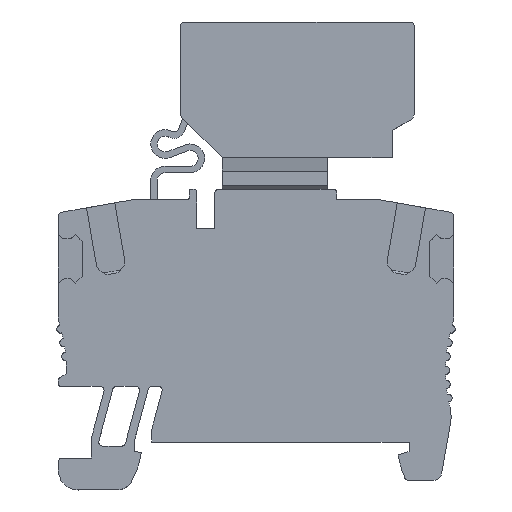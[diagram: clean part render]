
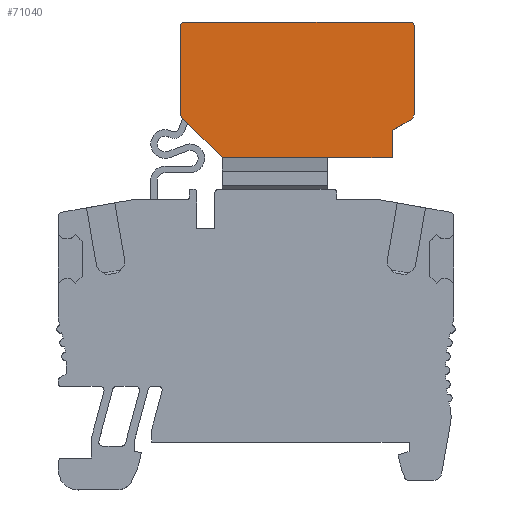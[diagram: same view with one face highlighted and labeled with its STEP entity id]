
A CAD part, top view. The second image highlights one B-rep face of the part: STEP entity #71040.
In plain terms, the highlighted planar face has unit normal (0, 0, 1).
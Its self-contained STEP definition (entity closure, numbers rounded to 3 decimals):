
#67000=CARTESIAN_POINT('',(-25.804,40.754,
0.7));
#67010=VERTEX_POINT('',#67000);
#67040=CARTESIAN_POINT('',(8.95,6.,
0.7));
#67050=DIRECTION('',(-0.707,0.707,
0.));
#67060=VECTOR('',#67050,1.);
#67070=LINE('',#67040,#67060);
#67080=CARTESIAN_POINT('',(-20.75,35.7,
0.7));
#67090=VERTEX_POINT('',#67080);
#67100=EDGE_CURVE('',#67090,#67010,#67070,.T.);
#67530=CARTESIAN_POINT('',(2.85,52.7,
0.7));
#67540=VERTEX_POINT('',#67530);
#67700=CARTESIAN_POINT('',(3.35,52.2,
0.7));
#67710=VERTEX_POINT('',#67700);
#67740=CARTESIAN_POINT('',(2.85,52.2,
0.7));
#67750=DIRECTION('',(0.,0.,1.));
#67760=DIRECTION('',(1.,0.,0.));
#67770=AXIS2_PLACEMENT_3D('',#67740,#67750,#67760);
#67780=CIRCLE('',#67770,0.5);
#67790=EDGE_CURVE('',#67710,#67540,#67780,.T.);
#67970=CARTESIAN_POINT('',(-10.8,52.7,
0.7));
#67980=DIRECTION('',(1.,0.,0.));
#67990=VECTOR('',#67980,1.);
#68000=LINE('',#67970,#67990);
#68010=CARTESIAN_POINT('',(-25.45,52.7,0.7));
#68020=VERTEX_POINT('',#68010);
#68030=EDGE_CURVE('',#68020,#67540,#68000,.T.);
#69030=CARTESIAN_POINT('',(-25.45,52.2,0.7));
#69040=DIRECTION('',(0.,0.,-1.));
#69050=DIRECTION('',(-1.,0.,0.));
#69060=AXIS2_PLACEMENT_3D('',#69030,#69040,#69050);
#69070=CIRCLE('',#69060,0.5);
#69080=CARTESIAN_POINT('',(-25.95,52.2,0.7));
#69090=VERTEX_POINT('',#69080);
#69100=EDGE_CURVE('',#69090,#68020,#69070,.T.);
#69510=CARTESIAN_POINT('',(-25.95,6.,0.7));
#69520=DIRECTION('',(0.,1.,0.));
#69530=VECTOR('',#69520,1.);
#69540=LINE('',#69510,#69530);
#69550=CARTESIAN_POINT('',(-25.95,41.107,0.7));
#69560=VERTEX_POINT('',#69550);
#69570=EDGE_CURVE('',#69560,#69090,#69540,.T.);
#69810=CARTESIAN_POINT('',(-25.45,41.107,0.7));
#69820=DIRECTION('',(0.,0.,1.));
#69830=DIRECTION('',(1.,0.,0.));
#69840=AXIS2_PLACEMENT_3D('',#69810,#69820,#69830);
#69850=CIRCLE('',#69840,0.5);
#69860=EDGE_CURVE('',#69560,#67010,#69850,.T.);
#70110=CARTESIAN_POINT('',(-10.8,35.7,
0.7));
#70120=DIRECTION('',(1.,0.,0.));
#70130=VECTOR('',#70120,1.);
#70140=LINE('',#70110,#70130);
#70150=CARTESIAN_POINT('',(-7.55,35.7,
0.7));
#70160=VERTEX_POINT('',#70150);
#70170=EDGE_CURVE('',#67090,#70160,#70140,.T.);
#70510=CARTESIAN_POINT('',(-25.95,38.4,0.7));
#70520=DIRECTION('',(0.,0.,-1.));
#70530=DIRECTION('',(0.,1.,0.));
#70540=AXIS2_PLACEMENT_3D('',#70510,#70520,#70530);
#70550=PLANE('',#70540);
#70560=ORIENTED_EDGE('',*,*,#69860,.T.);
#70570=ORIENTED_EDGE('',*,*,#69570,.F.);
#70580=ORIENTED_EDGE('',*,*,#69100,.F.);
#70590=ORIENTED_EDGE('',*,*,#68030,.F.);
#70600=ORIENTED_EDGE('',*,*,#67790,.T.);
#70610=CARTESIAN_POINT('',(3.35,6.,
0.7));
#70620=DIRECTION('',(0.,-1.,0.));
#70630=VECTOR('',#70620,1.);
#70640=LINE('',#70610,#70630);
#70650=CARTESIAN_POINT('',(3.35,41.265,
0.7));
#70660=VERTEX_POINT('',#70650);
#70670=EDGE_CURVE('',#67710,#70660,#70640,.T.);
#70680=ORIENTED_EDGE('',*,*,#70670,.F.);
#70690=CARTESIAN_POINT('',(2.35,41.265,
0.7));
#70700=DIRECTION('',(0.,0.,-1.));
#70710=DIRECTION('',(-1.,0.,0.));
#70720=AXIS2_PLACEMENT_3D('',#70690,#70700,#70710);
#70730=CIRCLE('',#70720,1.);
#70740=CARTESIAN_POINT('',(2.85,40.399,
0.7));
#70750=VERTEX_POINT('',#70740);
#70760=EDGE_CURVE('',#70660,#70750,#70730,.T.);
#70770=ORIENTED_EDGE('',*,*,#70760,.F.);
#70780=CARTESIAN_POINT('',(-25.75,23.887,
0.7));
#70790=DIRECTION('',(-0.866,-0.5,0.));
#70800=VECTOR('',#70790,1.);
#70810=LINE('',#70780,#70800);
#70820=CARTESIAN_POINT('',(0.6,39.1,
0.7));
#70830=VERTEX_POINT('',#70820);
#70840=EDGE_CURVE('',#70750,#70830,#70810,.T.);
#70850=ORIENTED_EDGE('',*,*,#70840,.F.);
#70860=CARTESIAN_POINT('',(0.6,6.,
0.7));
#70870=DIRECTION('',(0.,-1.,0.));
#70880=VECTOR('',#70870,1.);
#70890=LINE('',#70860,#70880);
#70900=CARTESIAN_POINT('',(0.6,35.7,
0.7));
#70910=VERTEX_POINT('',#70900);
#70920=EDGE_CURVE('',#70830,#70910,#70890,.T.);
#70930=ORIENTED_EDGE('',*,*,#70920,.F.);
#70940=CARTESIAN_POINT('',(-25.75,35.7,
0.7));
#70950=DIRECTION('',(-1.,0.,0.));
#70960=VECTOR('',#70950,1.);
#70970=LINE('',#70940,#70960);
#70980=EDGE_CURVE('',#70910,#70160,#70970,.T.);
#70990=ORIENTED_EDGE('',*,*,#70980,.F.);
#71000=ORIENTED_EDGE('',*,*,#70170,.T.);
#71010=ORIENTED_EDGE('',*,*,#67100,.F.);
#71020=EDGE_LOOP('',(#71010,#71000,#70990,#70930,#70850,#70770,#70680,
#70600,#70590,#70580,#70570,#70560));
#71030=FACE_OUTER_BOUND('',#71020,.T.);
#71040=ADVANCED_FACE('',(#71030),#70550,.F.);
